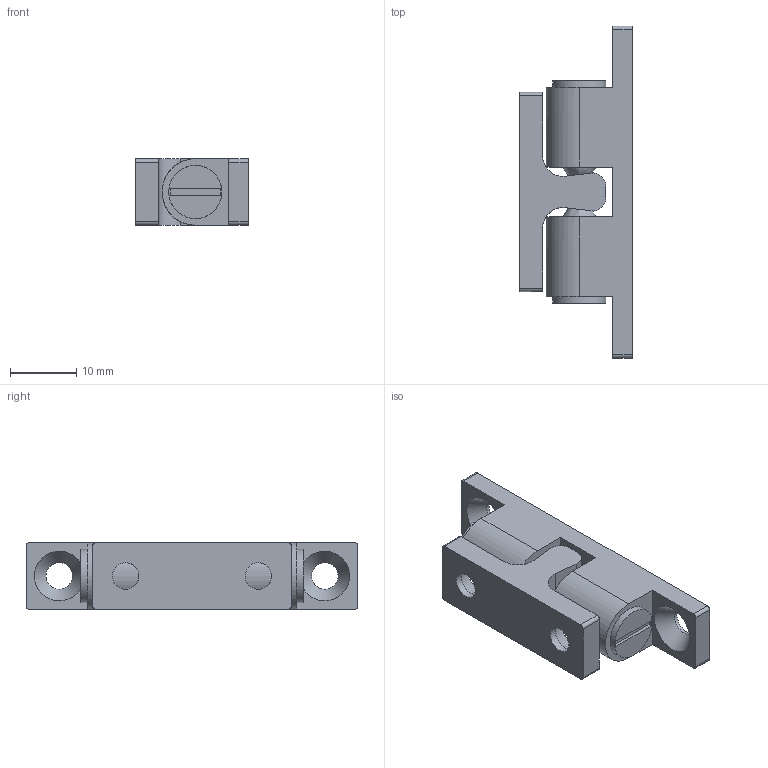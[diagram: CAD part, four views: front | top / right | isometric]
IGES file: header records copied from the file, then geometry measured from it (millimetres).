
Global section: file name: DR_B-BS50; native system: Autodesk Inventor 2015; preprocessor: unknown; author: Administrator; date: 20180305.141612; units: millimetre
Bounding box: 17 x 50 x 10 mm (x, y, z)
Volume: 4689 mm3; surface area: 4728.4 mm2
Topology: 8 solids, 8 shells, 104 faces, 252 edges, 174 vertices
Faces by surface type: bspline 104
